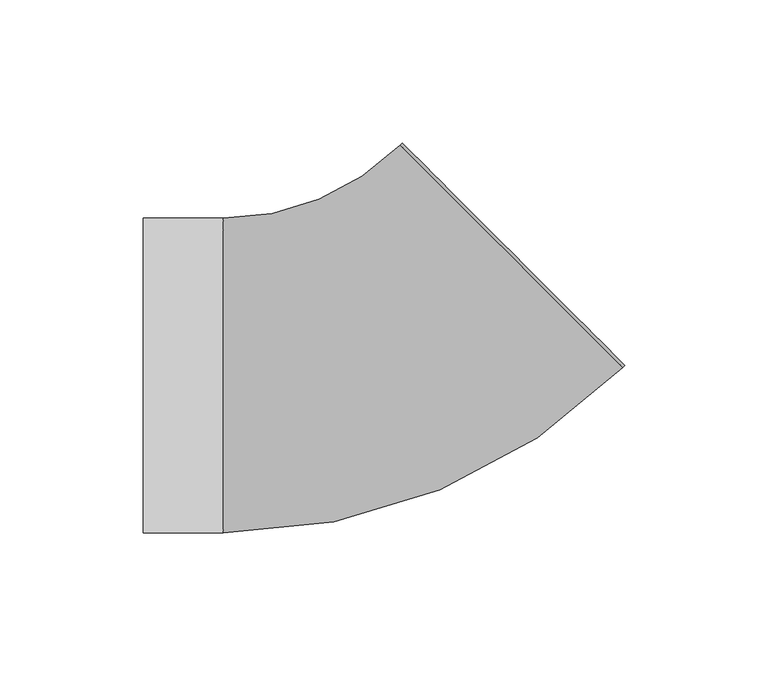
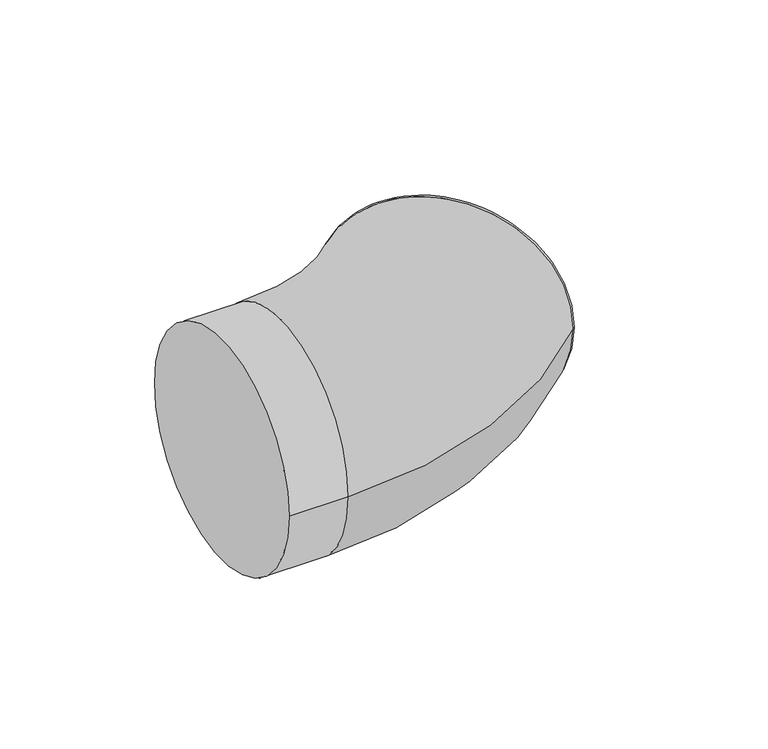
"""IFC4 building model written with IfcOpenShell, lengths in millimetres: pipe fitting geometry, NLRS_52_PIF_UN_PE aansluitbocht 45° met aansluitsteekmof, voor wand-wc_geb : DN90-100 / ø90-110."""

from ifc_helpers import new_model, si_unit, point, frame, origin, place, context, project, spatial, circle_curve, ellipse_curve, trimmed, source, transform, mapped, element, save
from ifc_brep_helpers import plane_surface, cylinder_surface, revolved_surface, advanced_brep


def pipe_fitting_84bfb5ac(model_context):
    return source(origin(), model_context, "Body", "AdvancedBrep", [
        advanced_brep(
        [(81.3172798, 3.5355339, 0.0), (3.5355339, 81.3172798, 0.0), (2.8284271, 80.6101731, 0.0), (41.7193001, 41.7193001, 55.0), (80.6101731, 2.8284271, 0.0), (41.7193001, 41.7193001, -55.0), (-59.0, 55.0, 0.0), (-59.0, -55.0, 0.0), (-87.0, -55.0, 0.0), (-87.0, 55.0, 0.0)],
        [
            (0, 1, circle_curve(frame((42.4264069, 42.4264069, 0.0), z_axis=(0.707106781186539, 0.707106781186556, 0.0), x_axis=(-0.707106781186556, 0.707106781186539, 0.0)), 55.0)),
            (1, 0, circle_curve(frame((42.4264069, 42.4264069, 0.0), z_axis=(0.707106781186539, 0.707106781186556, 0.0), x_axis=(-0.707106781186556, 0.707106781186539, 0.0)), 55.0)),
            (1, 2),
            (2, 3, circle_curve(frame((41.7193001, 41.7193001, 0.0), z_axis=(0.707106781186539, 0.707106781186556, 0.0), x_axis=(-0.707106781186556, 0.707106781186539, 0.0)), 55.0)),
            (3, 4, circle_curve(frame((41.7193001, 41.7193001, 0.0), z_axis=(0.707106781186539, 0.707106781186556, 0.0), x_axis=(-0.707106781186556, 0.707106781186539, 0.0)), 55.0)),
            (4, 0),
            (4, 5, circle_curve(frame((41.7193001, 41.7193001, 0.0), z_axis=(0.707106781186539, 0.707106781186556, 0.0), x_axis=(-0.707106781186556, 0.707106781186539, 0.0)), 55.0)),
            (5, 2, circle_curve(frame((41.7193001, 41.7193001, 0.0), z_axis=(0.707106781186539, 0.707106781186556, 0.0), x_axis=(-0.707106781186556, 0.707106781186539, 0.0)), 55.0)),
            (2, 6, circle_curve(frame((-59.0, 142.4386002, 0.0), z_axis=(0.0, 0.0, -1.0), x_axis=(0.0, -1.0, 0.0)), 87.4386002)),
            (6, 7, circle_curve(frame((-59.0, 0.0, 0.0), z_axis=(1.0, 0.0, 0.0), x_axis=(0.0, 1.0, 0.0)), 55.0)),
            (7, 4, circle_curve(frame((-59.0, 142.4386002, 0.0), z_axis=(0.0, 0.0, 1.0), x_axis=(0.0, -1.0, 0.0)), 197.4386002)),
            (7, 6, circle_curve(frame((-59.0, 0.0, 0.0), z_axis=(1.0, 0.0, 0.0), x_axis=(0.0, 1.0, 0.0)), 55.0)),
            (8, 9, circle_curve(frame((-87.0, 0.0, 0.0), z_axis=(-1.0, 0.0, 0.0), x_axis=(0.0, 1.0, 0.0)), 55.0)),
            (9, 8, circle_curve(frame((-87.0, 0.0, 0.0), z_axis=(-1.0, 0.0, 0.0), x_axis=(0.0, 1.0, 0.0)), 55.0)),
            (9, 6),
            (7, 8),
        ],
        [
            plane_surface(frame((42.4264069, 42.4264069, 0.0), z_axis=(0.707106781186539, 0.707106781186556, 0.0), x_axis=(0.0, 0.0, 1.0))),
            cylinder_surface(frame((41.7193001, 41.7193001, 0.0), z_axis=(-0.707106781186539, -0.707106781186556, 0.0), x_axis=(-0.707106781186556, 0.707106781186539, 0.0)), 55.0),
            revolved_surface(trimmed(ellipse_curve(frame((-59.0, 0.0, 0.0), z_axis=(-1.0, 0.0, 0.0), x_axis=(0.0, 1.0, 0.0)), 55.0, 55.0), [point((-59.0, -55.0, 0.0))], [point((-59.0, 55.0, 0.0))], True, "CARTESIAN"), (-59.0, 142.4386002, 0.0), (0.0, 0.0, 1.0)),
            revolved_surface(trimmed(ellipse_curve(frame((-59.0, 0.0, 0.0), z_axis=(-1.0, 0.0, 0.0), x_axis=(0.0, 1.0, 0.0)), 55.0, 55.0), [point((-59.0, 55.0, 0.0))], [point((-59.0, -55.0, 0.0))], True, "CARTESIAN"), (-59.0, 142.4386002, 0.0), (0.0, 0.0, 1.0)),
            plane_surface(frame((-87.0, 55.0, 0.0), z_axis=(-1.0, 0.0, 0.0), x_axis=(0.0, 0.0, -1.0))),
            cylinder_surface(frame((-87.0, 0.0, 0.0), z_axis=(1.0, 0.0, 0.0), x_axis=(0.0, 1.0, 0.0)), 55.0),
        ],
        [
            (0, [[1, 2]]),
            (1, [[-2, 3, 4, 5, 6]]),
            (1, [[-1, -6, 7, 8, -3]]),
            (2, [[9, 10, 11, -5, -4]]),
            (3, [[-9, -8, -7, -11, 12]]),
            (4, [[13, 14]]),
            (5, [[-14, 15, -12, 16]]),
            (5, [[-13, -16, -10, -15]]),
        ],
    ),
    ])


if __name__ == "__main__":
    model = new_model("IFC4")
    model_context = context("Model", 3, world=origin())
    ifc_project = project(units=[si_unit("LENGTHUNIT", "METRE", prefix="MILLI")], contexts=[model_context])
    site = spatial("IfcSite", under=ifc_project)
    building = spatial("IfcBuilding", under=site)
    placement = place(None, origin())
    pipe_fitting_shape = pipe_fitting_84bfb5ac(model_context)
    element("IfcPipeFitting", 1, ObjectType="NLRS_52_PIF_UN_PE aansluitbocht 45° met aansluitsteekmof, voor wand-wc_geb : DN90-100 / ø90-110", at=placement, inside=building, context=model_context, shape_type="MappedRepresentation", body=[
        mapped(pipe_fitting_shape, transform((0.0, 0.0, 0.0), x_axis=(1.0, 0.0, 0.0), y_axis=(0.0, 1.0, 0.0), z_axis=(0.0, 0.0, 1.0))),
    ])
    save(model, "model.ifc")
